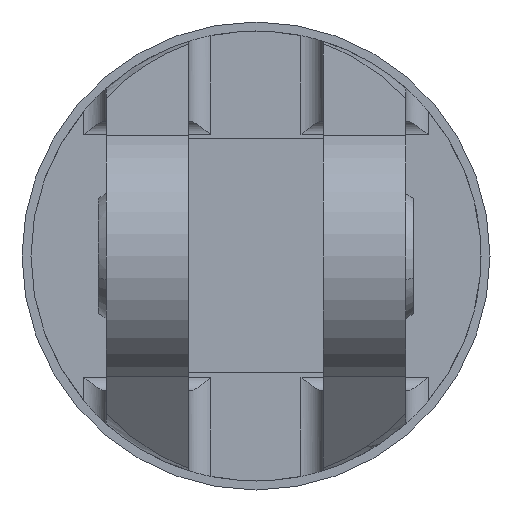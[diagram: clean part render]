
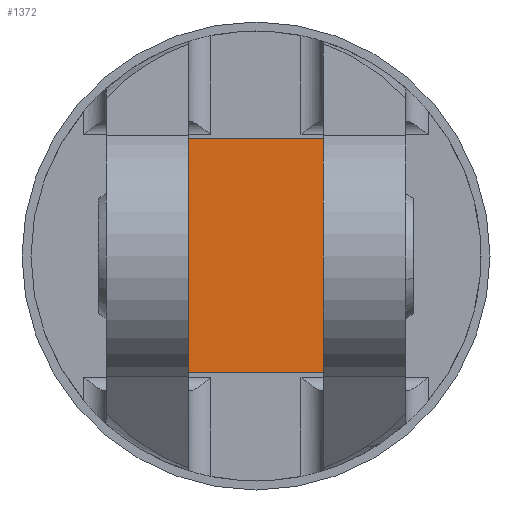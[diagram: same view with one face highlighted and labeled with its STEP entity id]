
A CAD part, left-side view. The second image highlights one B-rep face of the part: STEP entity #1372.
In plain terms, the highlighted planar face has unit normal (-1, 0, 0).
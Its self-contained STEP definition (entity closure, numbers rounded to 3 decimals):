
#47 = DIRECTION ( 'NONE',  ( 0., 1., 0. ) ) ;
#68 = VECTOR ( 'NONE', #1613, 1000. ) ;
#73 = VERTEX_POINT ( 'NONE', #359 ) ;
#275 = FACE_OUTER_BOUND ( 'NONE', #2319, .T. ) ;
#311 = ORIENTED_EDGE ( 'NONE', *, *, #2771, .T. ) ;
#359 = CARTESIAN_POINT ( 'NONE',  ( -13., 26., 26. ) ) ;
#454 = CARTESIAN_POINT ( 'NONE',  ( -13., 26., -26. ) ) ;
#504 = EDGE_CURVE ( 'NONE', #1015, #2618, #1269, .T. ) ;
#555 = VECTOR ( 'NONE', #788, 1000. ) ;
#728 = LINE ( 'NONE', #1956, #1028 ) ;
#788 = DIRECTION ( 'NONE',  ( 0., 0., 1. ) ) ;
#854 = CARTESIAN_POINT ( 'NONE',  ( -13., -26., 26. ) ) ;
#904 = VECTOR ( 'NONE', #2704, 1000. ) ;
#1015 = VERTEX_POINT ( 'NONE', #454 ) ;
#1028 = VECTOR ( 'NONE', #1488, 1000. ) ;
#1138 = EDGE_CURVE ( 'NONE', #1991, #73, #1212, .T. ) ;
#1165 = AXIS2_PLACEMENT_3D ( 'NONE', #1205, #2766, #47 ) ;
#1205 = CARTESIAN_POINT ( 'NONE',  ( -13., 15., -50. ) ) ;
#1212 = LINE ( 'NONE', #1906, #904 ) ;
#1262 = ORIENTED_EDGE ( 'NONE', *, *, #504, .T. ) ;
#1269 = LINE ( 'NONE', #2084, #68 ) ;
#1372 = ADVANCED_FACE ( 'NONE', ( #275 ), #2510, .T. ) ;
#1400 = ORIENTED_EDGE ( 'NONE', *, *, #2724, .T. ) ;
#1488 = DIRECTION ( 'NONE',  ( 0., 0., -1. ) ) ;
#1613 = DIRECTION ( 'NONE',  ( 0., -1., 0. ) ) ;
#1638 = LINE ( 'NONE', #2372, #555 ) ;
#1906 = CARTESIAN_POINT ( 'NONE',  ( -13., 26., 26. ) ) ;
#1956 = CARTESIAN_POINT ( 'NONE',  ( -13., 26., -26. ) ) ;
#1987 = ORIENTED_EDGE ( 'NONE', *, *, #1138, .T. ) ;
#1991 = VERTEX_POINT ( 'NONE', #854 ) ;
#2084 = CARTESIAN_POINT ( 'NONE',  ( -13., -26., -26. ) ) ;
#2102 = CARTESIAN_POINT ( 'NONE',  ( -13., -26., -26. ) ) ;
#2319 = EDGE_LOOP ( 'NONE', ( #1400, #1262, #311, #1987 ) ) ;
#2372 = CARTESIAN_POINT ( 'NONE',  ( -13., -26., 26. ) ) ;
#2510 = PLANE ( 'NONE',  #1165 ) ;
#2618 = VERTEX_POINT ( 'NONE', #2102 ) ;
#2704 = DIRECTION ( 'NONE',  ( 0., 1., 0. ) ) ;
#2724 = EDGE_CURVE ( 'NONE', #73, #1015, #728, .T. ) ;
#2766 = DIRECTION ( 'NONE',  ( -1., 0., 0. ) ) ;
#2771 = EDGE_CURVE ( 'NONE', #2618, #1991, #1638, .T. ) ;
